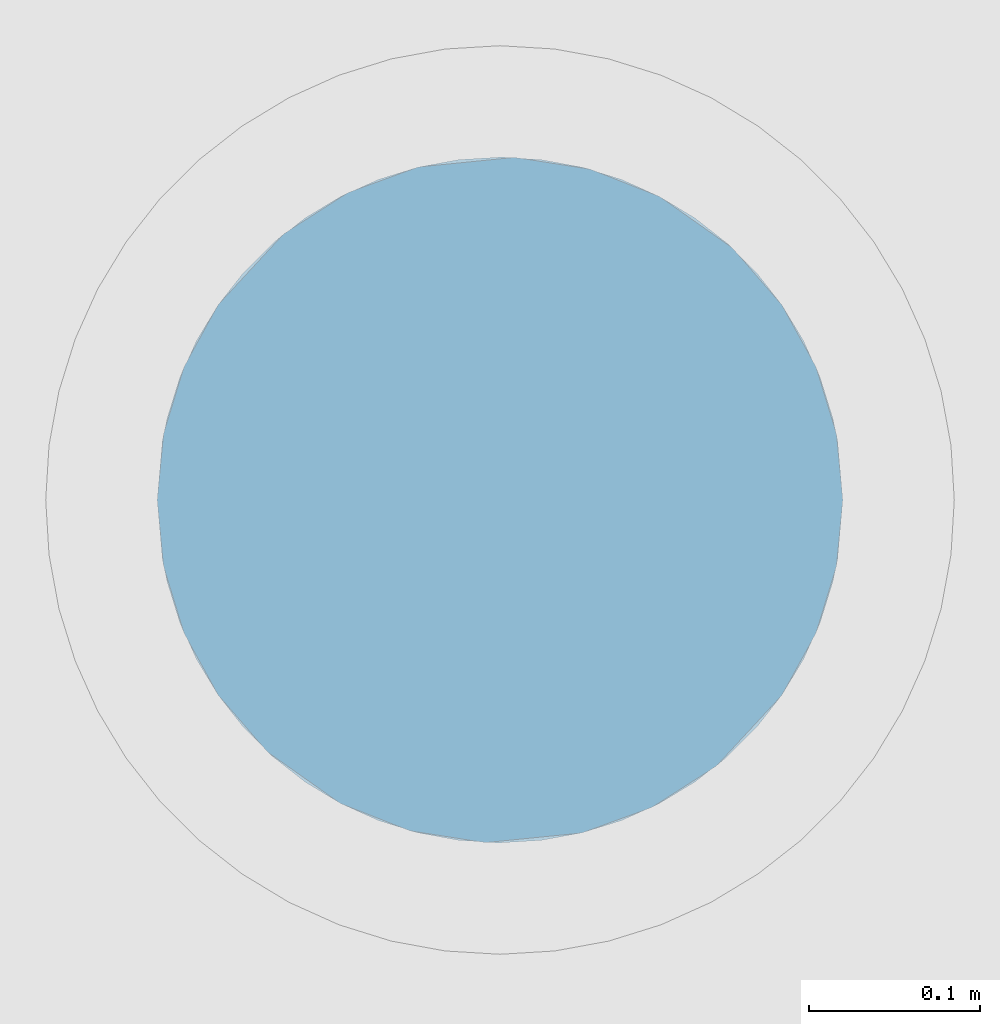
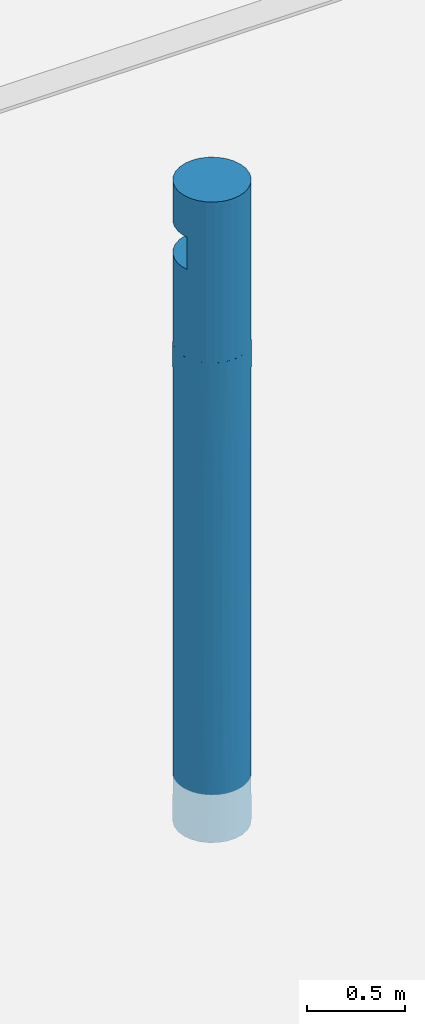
# One storey, part 11 of 29: 1 column.
"""IFC2X3 building model written with IfcOpenShell, lengths in centimetres."""

from ifc_helpers import new_model, entity, si_unit, converted_unit, derived_unit, direction, frame, origin, place, context, subcontext, project, spatial, faceted_brep, source, transform, mapped, material, type_object, type_shapes, element, save


model = new_model("IFC2X3")

# Units and contexts
model_context = context("Model", 3, precision=0.001, world=origin(), true_north=direction((6.12303176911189e-17, 1.0)))
body_context = subcontext(model_context, "Body", "Model", "MODEL_VIEW")
ifc_project = project(units=[si_unit("LENGTHUNIT", "METRE", prefix="CENTI"), si_unit("AREAUNIT", "SQUARE_METRE"), si_unit("VOLUMEUNIT", "CUBIC_METRE"), converted_unit("PLANEANGLEUNIT", "DEGREE", entity("IfcRatioMeasure", 0.0174532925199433), si_unit("PLANEANGLEUNIT", "RADIAN"), dimensions=[0, 0, 0, 0, 0, 0, 0]), si_unit("MASSUNIT", "GRAM", prefix="KILO"), derived_unit("MASSDENSITYUNIT", [(si_unit("MASSUNIT", "GRAM", prefix="KILO"), 1), (si_unit("LENGTHUNIT", "METRE"), -3)]), si_unit("TIMEUNIT", "SECOND"), si_unit("FREQUENCYUNIT", "HERTZ"), si_unit("THERMODYNAMICTEMPERATUREUNIT", "DEGREE_CELSIUS"), derived_unit("THERMALTRANSMITTANCEUNIT", [(si_unit("MASSUNIT", "GRAM", prefix="KILO"), 1), (si_unit("THERMODYNAMICTEMPERATUREUNIT", "KELVIN"), -1), (si_unit("TIMEUNIT", "SECOND"), -3)]), derived_unit("VOLUMETRICFLOWRATEUNIT", [(si_unit("LENGTHUNIT", "METRE"), 3), (si_unit("TIMEUNIT", "SECOND"), -1)]), si_unit("ELECTRICCURRENTUNIT", "AMPERE"), si_unit("ELECTRICVOLTAGEUNIT", "VOLT"), si_unit("POWERUNIT", "WATT"), si_unit("FORCEUNIT", "NEWTON"), si_unit("ILLUMINANCEUNIT", "LUX"), si_unit("LUMINOUSFLUXUNIT", "LUMEN"), si_unit("LUMINOUSINTENSITYUNIT", "CANDELA"), derived_unit("USERDEFINED", [(si_unit("MASSUNIT", "GRAM", prefix="KILO"), -1), (si_unit("LENGTHUNIT", "METRE"), -2), (si_unit("TIMEUNIT", "SECOND"), 3), (si_unit("LUMINOUSFLUXUNIT", "LUMEN"), 1)]), derived_unit("LINEARVELOCITYUNIT", [(si_unit("LENGTHUNIT", "METRE"), 1), (si_unit("TIMEUNIT", "SECOND"), -1)]), si_unit("PRESSUREUNIT", "PASCAL"), derived_unit("USERDEFINED", [(si_unit("LENGTHUNIT", "METRE"), -2), (si_unit("MASSUNIT", "GRAM", prefix="KILO"), 1), (si_unit("TIMEUNIT", "SECOND"), -2)])], contexts=[model_context])

# Site, building, storey
site_placement = place(None, origin())
site = spatial("IfcSite", under=ifc_project, at=site_placement, Name="Default", CompositionType="ELEMENT")
building_placement = place(site_placement, origin())
building = spatial("IfcBuilding", under=site, at=building_placement, Name="CAGE 03", CompositionType="ELEMENT")
storey_placement = place(building_placement, frame((0.0, 0.0, -26.0)))
storey = spatial("IfcBuildingStorey", under=building, at=storey_placement, Name="+3.74", CompositionType="ELEMENT", Elevation=-26.0000000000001)

# Column
ifc_material = material(Name="Béton, C25/30")
column_type = type_object("IfcColumnType", Name="Ø40", PredefinedType="COLUMN", material=ifc_material)
shared_shape = source(origin(), body_context, "Body", "Brep", [
    faceted_brep([(20.1595272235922, 0.15952722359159, 398.0), (24.6091393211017, 0.659193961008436, 398.0), (28.8358050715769, 2.13788626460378, 398.0), (32.6277082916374, 4.5200188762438, 398.0), (35.7947418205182, 7.68636603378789, 398.0), (38.1780107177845, 11.4784056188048, 398.0), (38.9178626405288, 13.5921492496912, 398.0), (39.657714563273, 15.7058928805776, 398.0), (39.9086208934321, 17.9319145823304, 398.0), (40.159527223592, 20.1579362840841, 398.0), (39.657714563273, 24.6099796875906, 398.0), (38.1780107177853, 28.8374669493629, 398.0), (35.7947418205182, 32.6295065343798, 398.0), (32.6277082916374, 35.7958536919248, 398.0), (28.8358050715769, 38.1779863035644, 398.0), (24.6091393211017, 39.6566786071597, 398.0), (20.1595272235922, 40.1563453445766, 398.0), (15.7099151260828, 39.6566786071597, 398.0), (11.4832493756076, 38.1779863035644, 398.0), (7.69134615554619, 35.7958536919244, 398.0), (4.52431262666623, 32.6295065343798, 398.0), (2.14104372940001, 28.8374669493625, 398.0), (0.661339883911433, 24.6099796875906, 398.0), (0.15952722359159, 20.1579362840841, 398.0), (0.410433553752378, 17.9319145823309, 398.0), (0.661339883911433, 15.7058928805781, 398.0), (1.40119180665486, 13.5921492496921, 398.0), (2.14104372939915, 11.4784056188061, 398.0), (4.52431262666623, 7.68636603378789, 398.0), (7.69134615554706, 4.52001887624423, 398.0), (11.4832493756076, 2.13788626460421, 398.0), (15.7099151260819, 0.659193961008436, 398.0), (20.1595272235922, 40.1563453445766, 298.0), (24.6091393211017, 39.6566786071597, 298.0), (28.8358050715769, 38.1779863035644, 298.0), (32.6277082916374, 35.7958536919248, 298.0), (35.7947418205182, 32.6295065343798, 298.0), (38.1780107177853, 28.8374669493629, 298.0), (39.657714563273, 24.6099796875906, 298.0), (40.159527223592, 20.1579362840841, 298.0), (39.657714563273, 15.7058928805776, 298.0), (38.1780107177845, 11.4784056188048, 298.0), (35.7947418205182, 7.68636603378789, 298.0), (32.6277082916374, 4.5200188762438, 298.0), (28.8358050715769, 2.13788626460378, 298.0), (24.6091393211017, 0.659193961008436, 298.0), (20.1595272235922, 0.15952722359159, 298.0), (15.7099151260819, 0.659193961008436, 298.0), (11.4832493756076, 2.13788626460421, 298.0), (7.69134615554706, 4.52001887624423, 298.0), (4.52431262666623, 7.68636603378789, 298.0), (2.14104372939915, 11.4784056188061, 298.0), (0.661339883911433, 15.7058928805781, 298.0), (0.15952722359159, 20.1579362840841, 298.0), (0.661339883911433, 24.6099796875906, 298.0), (2.14104372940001, 28.8374669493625, 298.0), (4.52431262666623, 32.6295065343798, 298.0), (7.69134615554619, 35.7958536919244, 298.0), (11.4832493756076, 38.1779863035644, 298.0), (15.7099151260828, 39.6566786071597, 298.0), (0.478319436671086, 16.6012439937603, 353.0), (1.4245332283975, 13.1579362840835, 353.0), (0.159527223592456, 20.1579362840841, 353.0), (0.159527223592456, 20.1579362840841, 373.0), (0.478319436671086, 16.6012439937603, 373.0), (1.4245332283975, 13.1579362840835, 373.0), (38.894521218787, 13.1579362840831, 353.0), (39.8407350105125, 16.6012439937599, 353.0), (40.159527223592, 20.1579362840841, 353.0), (40.159527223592, 20.1579362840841, 373.0), (39.8407350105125, 16.6012439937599, 373.0), (38.894521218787, 13.1579362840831, 373.0), (39.6577145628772, 24.6099796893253, 373.0), (38.1780106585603, 28.8374670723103, 373.0), (38.1780106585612, 28.8374670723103, 353.0), (39.6577145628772, 24.6099796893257, 353.0), (35.7947416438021, 32.6295067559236, 373.0), (32.6277079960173, 35.7958539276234, 373.0), (28.8358047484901, 38.1779864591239, 373.0), (32.6277079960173, 35.7958539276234, 353.0), (35.7947416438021, 32.6295067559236, 353.0), (24.6091391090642, 39.6566786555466, 373.0), (20.1595272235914, 40.1579362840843, 373.0), (11.4832496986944, 38.1779864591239, 373.0), (7.69134645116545, 35.7958539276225, 373.0), (15.7099153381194, 39.6566786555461, 373.0), (4.52431280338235, 32.6295067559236, 373.0), (2.14104378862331, 28.8374670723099, 373.0), (0.661339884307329, 24.6099796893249, 373.0), (0.661339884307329, 24.6099796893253, 353.0), (2.14104378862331, 28.8374670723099, 353.0), (28.8358047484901, 38.1779864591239, 353.0), (24.6091391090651, 39.6566786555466, 353.0), (20.1595272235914, 40.1563453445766, 353.0), (15.7099153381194, 39.6566786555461, 353.0), (11.4832496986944, 38.1779864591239, 353.0), (7.69134645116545, 35.795853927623, 353.0), (4.52431280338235, 32.6295067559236, 353.0)], [[[0, 1, 2, 3, 4, 5, 6, 7, 8, 9, 10, 11, 12, 13, 14, 15, 16, 17, 18, 19, 20, 21, 22, 23, 24, 25, 26, 27, 28, 29, 30, 31]], [[32, 33, 34, 35, 36, 37, 38, 39, 40, 41, 42, 43, 44, 45, 46, 47, 48, 49, 50, 51, 52, 53, 54, 55, 56, 57, 58, 59]], [[60, 52, 61]], [[62, 53, 60]], [[60, 53, 52]], [[61, 52, 51]], [[48, 47, 31, 30]], [[28, 50, 49, 29]], [[29, 49, 48, 30]], [[51, 50, 61]], [[31, 47, 46, 0]], [[63, 24, 23]], [[24, 63, 64]], [[65, 25, 64]], [[65, 27, 26, 25]], [[61, 27, 65]], [[61, 28, 27]], [[28, 61, 50]], [[42, 4, 3, 43]], [[44, 2, 1, 45]], [[44, 43, 3, 2]], [[42, 41, 66]], [[40, 39, 67]], [[40, 67, 66]], [[67, 39, 68]], [[64, 25, 24]], [[69, 8, 70]], [[40, 66, 41]], [[42, 66, 4]], [[45, 1, 0, 46]], [[71, 7, 6, 5]], [[69, 9, 8]], [[71, 70, 7]], [[7, 70, 8]], [[5, 4, 66]], [[71, 5, 66]], [[11, 72, 73]], [[74, 75, 37]], [[10, 9, 69, 72]], [[38, 75, 68, 39]], [[12, 73, 76]], [[14, 77, 78]], [[77, 12, 76]], [[35, 79, 80]], [[15, 78, 81]], [[11, 73, 12]], [[74, 37, 36]], [[10, 72, 11]], [[38, 37, 75]], [[77, 14, 13]], [[13, 12, 77]], [[80, 36, 35]], [[14, 78, 15]], [[82, 16, 15]], [[15, 81, 82]], [[83, 84, 18]], [[85, 83, 17]], [[86, 87, 20]], [[88, 63, 23, 22]], [[89, 54, 53, 62]], [[87, 88, 21]], [[89, 90, 55]], [[84, 86, 19]], [[16, 85, 17]], [[17, 83, 18]], [[19, 18, 84]], [[86, 20, 19]], [[87, 21, 20]], [[90, 56, 55]], [[22, 21, 88]], [[55, 54, 89]], [[85, 16, 82]], [[91, 92, 93, 94, 95, 96, 97, 90, 89, 62, 60, 61, 66, 67, 68, 75, 74, 80, 79]], [[70, 71, 65, 64, 63, 88, 87, 86, 84, 83, 85, 82, 81, 78, 77, 76, 73, 72, 69]], [[65, 71, 66, 61]], [[34, 33, 91]], [[79, 35, 34]], [[92, 33, 32]], [[36, 80, 74]], [[91, 79, 34]], [[33, 92, 91]], [[32, 93, 92]], [[95, 59, 58]], [[57, 96, 58]], [[97, 57, 56]], [[32, 94, 93]], [[94, 59, 95]], [[96, 95, 58]], [[57, 97, 96]], [[56, 90, 97]], [[94, 32, 59]]]),
    faceted_brep([(22.5702608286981, 40.0121137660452, 0.0), (27.2516249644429, 38.8582611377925, 0.0), (31.5208221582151, 36.6176136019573, 0.0), (35.1297421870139, 33.4203894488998, 0.0), (37.8686477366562, 29.4523997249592, 0.0), (39.578363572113, 24.9442495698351, 0.0), (40.159527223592, 20.1579362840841, 0.0), (39.578363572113, 15.3716229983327, 0.0), (37.8686477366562, 10.8634728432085, 0.0), (35.1297421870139, 6.89548311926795, 0.0), (31.5208221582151, 3.69825896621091, 0.0), (27.2516249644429, 1.45761143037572, 0.0), (22.5702608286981, 0.303758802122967, 0.0), (17.7487936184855, 0.303758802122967, 0.0), (13.0674294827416, 1.45761143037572, 0.0), (8.79823228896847, 3.69825896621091, 0.0), (5.1893122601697, 6.89548311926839, 0.0), (2.45040671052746, 10.8634728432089, 0.0), (0.740690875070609, 15.3716229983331, 0.0), (0.15952722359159, 20.1579362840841, 0.0), (0.740690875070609, 24.9442495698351, 0.0), (2.45040671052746, 29.4523997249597, 0.0), (5.1893122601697, 33.4203894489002, 0.0), (8.79823228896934, 36.6176136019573, 0.0), (13.0674294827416, 38.8582611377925, 0.0), (17.7487936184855, 40.0121137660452, 0.0), (27.2516249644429, 1.45761143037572, 298.0), (31.5208221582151, 3.69825896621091, 298.0), (35.1297421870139, 6.89548311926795, 298.0), (37.8686477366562, 10.8634728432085, 298.0), (39.578363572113, 15.3716229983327, 298.0), (40.159527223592, 20.1579362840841, 298.0), (39.578363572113, 24.9442495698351, 298.0), (37.8686477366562, 29.4523997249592, 298.0), (35.1297421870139, 33.4203894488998, 298.0), (31.5208221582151, 36.6176136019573, 298.0), (27.2516249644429, 38.8582611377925, 298.0), (22.5702608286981, 40.0121137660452, 298.0), (17.7487936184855, 40.0121137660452, 298.0), (13.0674294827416, 38.8582611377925, 298.0), (8.79823228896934, 36.6176136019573, 298.0), (5.1893122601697, 33.4203894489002, 298.0), (2.45040671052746, 29.4523997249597, 298.0), (0.740690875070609, 24.9442495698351, 298.0), (0.15952722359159, 20.1579362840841, 298.0), (0.740690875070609, 15.3716229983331, 298.0), (2.45040671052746, 10.8634728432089, 298.0), (5.1893122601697, 6.89548311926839, 298.0), (8.79823228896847, 3.69825896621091, 298.0), (13.0674294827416, 1.45761143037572, 298.0), (17.7487936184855, 0.303758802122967, 298.0), (22.5702608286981, 0.303758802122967, 298.0), (29.4539906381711, 37.8670568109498, 234.492004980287), (15.3732139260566, 39.5767726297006, 237.069426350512), (39.8586298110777, 23.6141418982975, 60.2992552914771), (38.8598520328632, 27.250034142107, 92.1783624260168), (29.4539906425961, 37.8670568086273, 64.7303650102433), (33.4219803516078, 35.1281512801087, 86.909719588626), (0.159527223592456, 20.1579362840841, 49.3811051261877), (36.6192045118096, 31.5192312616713, 234.492005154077), (38.8598520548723, 27.2500340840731, 216.184382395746), (39.7898281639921, 23.9856359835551, 148.140478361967), (38.5835538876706, 27.9396611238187, 151.462832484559), (0.15952722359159, 20.1579362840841, 100.479587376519), (0.539464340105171, 24.0377729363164, 149.859525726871), (0.457816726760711, 23.5992446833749, 74.9297628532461), (1.73651405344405, 27.942060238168, 152.588649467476), (1.45920236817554, 27.25003402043, 86.9097194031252), (24.9458404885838, 39.5767726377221, 86.9097193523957), (20.15952721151, 40.1579362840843, 64.7303650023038), (3.69984990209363, 31.5192312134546, 237.069426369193), (6.89707405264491, 35.1281512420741, 233.269635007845), (40.159527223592, 20.1579362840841, 248.619841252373), (10.8650637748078, 37.8670567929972, 86.9097194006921), (33.4219803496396, 35.1281512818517, 216.184382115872), (36.6192044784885, 31.5192313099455, 161.451403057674), (36.6192045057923, 31.5192312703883, 64.7303651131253), (0.159527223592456, 20.1579362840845, 197.520510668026), (0.159527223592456, 20.1579362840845, 199.23979368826), (29.4539906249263, 37.8670568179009, 149.0), (0.441806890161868, 23.5062948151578, 238.83127802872), (1.45920236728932, 27.2500340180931, 211.090280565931), (15.3732139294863, 39.5767726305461, 60.9305736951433), (15.3732139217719, 39.5767726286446, 149.0), (11.3350094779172, 38.1058577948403, 149.0), (6.89707405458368, 35.1281512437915, 64.7303649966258), (20.1595272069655, 40.1579362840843, 233.269635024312), (3.6998499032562, 31.5192312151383, 60.930573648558), (3.69984990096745, 31.519231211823, 149.0), (21.0345162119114, 40.1387869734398, 146.717454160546), (25.4559542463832, 39.4438861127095, 149.0), (24.9458404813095, 39.5767726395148, 211.09028058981), (40.159527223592, 20.1579362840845, 98.7603174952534), (10.8650637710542, 37.8670567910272, 211.09028055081), (33.7312290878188, 34.8483722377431, 151.547050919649), (7.56471106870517, 35.694042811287, 146.717453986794), (39.8666164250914, 23.5683079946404, 223.070239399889), (40.159527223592, 20.1579362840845, 197.520634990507), (40.159527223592, 20.1579362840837, 100.479367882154), (40.159527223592, 20.1579362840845, 49.3801580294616), (0.159527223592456, 20.1579362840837, 98.7602553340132), (0.15952722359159, 20.1579362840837, 248.619032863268), (40.1595272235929, 20.1579362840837, 199.239683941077), (36.6192045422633, 8.79664135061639, 237.069426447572), (33.4219803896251, 5.18772132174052, 233.269635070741), (39.8772475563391, 16.8095777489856, 238.831278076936), (38.8598520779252, 13.0658385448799, 211.090280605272), (38.5825403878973, 12.3738123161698, 152.588649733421), (38.8598520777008, 13.0658385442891, 86.9097193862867), (39.7795901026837, 16.2780996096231, 149.859525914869), (6.89707406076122, 5.1877213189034, 86.9097194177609), (10.8650637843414, 2.4488157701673, 64.7303649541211), (24.9458405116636, 0.739099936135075, 149.0), (29.4539906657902, 2.44881577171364, 86.909719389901), (28.9840449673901, 2.21001477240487, 149.0), (6.89707406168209, 5.18772131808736, 216.184381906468), (32.7543433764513, 4.62182975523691, 146.717453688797), (33.4219803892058, 5.18772132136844, 64.7303649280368), (39.8612377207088, 16.7166278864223, 74.9297629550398), (20.1595272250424, 0.157936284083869, 64.7303649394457), (15.3732139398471, 0.739099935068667, 86.9097193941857), (1.45920237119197, 13.0658385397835, 92.1783625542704), (10.8650637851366, 2.44881576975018, 234.492004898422), (24.9458405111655, 0.739099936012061, 237.069426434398), (3.69984990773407, 8.79664134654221, 234.492004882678), (3.69984990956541, 8.79664134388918, 161.451402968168), (3.69984990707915, 8.79664134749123, 64.7303649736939), (1.45920237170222, 13.0658385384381, 216.184381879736), (0.529226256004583, 16.3302367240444, 148.140474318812), (1.73550049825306, 12.3762115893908, 151.462831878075), (10.865063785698, 2.44881576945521, 149.0), (0.460424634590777, 16.7017306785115, 60.2992559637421), (24.9458405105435, 0.739099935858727, 60.9305735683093), (19.2845382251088, 0.177085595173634, 146.717453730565), (36.6192045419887, 8.79664135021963, 60.9305735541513), (36.6192045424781, 8.79664135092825, 149.0), (20.1595272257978, 0.157936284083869, 233.269635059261), (14.8631001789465, 0.871986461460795, 149.0), (15.3732139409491, 0.739099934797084, 211.090280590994), (29.4539906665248, 2.44881577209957, 211.090280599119), (6.58782530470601, 5.46750038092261, 151.54705066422), (0.45243801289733, 16.7475646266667, 223.070237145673)], [[[0, 1, 2, 3, 4, 5, 6, 7, 8, 9, 10, 11, 12, 13, 14, 15, 16, 17, 18, 19, 20, 21, 22, 23, 24, 25]], [[26, 27, 28, 29, 30, 31, 32, 33, 34, 35, 36, 37, 38, 39, 40, 41, 42, 43, 44, 45, 46, 47, 48, 49, 50, 51]], [[36, 35, 52]], [[39, 38, 53]], [[54, 6, 5]], [[55, 5, 4]], [[2, 56, 57]], [[20, 19, 58]], [[34, 33, 59]], [[60, 61, 62]], [[2, 1, 56]], [[63, 64, 65]], [[66, 67, 64]], [[68, 0, 69]], [[2, 57, 3]], [[68, 1, 0]], [[70, 41, 71]], [[32, 31, 72]], [[73, 24, 23]], [[74, 35, 34]], [[33, 32, 60]], [[59, 33, 60]], [[74, 59, 75]], [[75, 76, 57]], [[64, 63, 77, 78]], [[74, 52, 35]], [[42, 41, 70]], [[57, 56, 79]], [[79, 52, 74]], [[80, 43, 81]], [[69, 25, 82]], [[83, 73, 84]], [[40, 71, 41]], [[73, 23, 85]], [[67, 65, 64]], [[37, 86, 38]], [[87, 88, 85]], [[88, 70, 71]], [[89, 68, 69]], [[22, 87, 85]], [[79, 68, 90]], [[85, 23, 22]], [[81, 43, 42]], [[86, 37, 91]], [[53, 38, 86]], [[61, 92, 54]], [[57, 76, 3]], [[54, 5, 55]], [[69, 82, 83]], [[83, 53, 86]], [[76, 75, 55]], [[93, 40, 39]], [[71, 40, 93]], [[94, 79, 74]], [[21, 20, 67]], [[44, 43, 80]], [[69, 0, 25]], [[91, 37, 36]], [[95, 73, 85]], [[3, 76, 4]], [[94, 74, 75]], [[52, 79, 91]], [[79, 56, 68]], [[32, 72, 96]], [[61, 97, 98, 92]], [[1, 68, 56]], [[55, 4, 76]], [[25, 24, 82]], [[89, 69, 83]], [[93, 53, 83]], [[83, 82, 73]], [[90, 89, 91]], [[91, 89, 86]], [[83, 86, 89]], [[22, 21, 87]], [[95, 85, 88]], [[81, 70, 88]], [[88, 87, 67]], [[84, 95, 93]], [[93, 95, 71]], [[88, 71, 95]], [[91, 36, 52]], [[75, 59, 60]], [[74, 34, 59]], [[24, 73, 82]], [[93, 39, 53]], [[21, 67, 87]], [[81, 42, 70]], [[62, 61, 55]], [[61, 60, 96]], [[55, 75, 62]], [[60, 62, 75]], [[61, 54, 55]], [[54, 92, 99, 6]], [[89, 90, 68]], [[91, 79, 90]], [[95, 84, 73]], [[93, 83, 84]], [[65, 58, 100, 63]], [[20, 58, 65]], [[20, 65, 67]], [[80, 64, 78]], [[64, 81, 66]], [[64, 80, 81]], [[80, 78, 101, 44]], [[75, 57, 94]], [[79, 94, 57]], [[96, 72, 102, 97]], [[61, 96, 97]], [[32, 96, 60]], [[81, 88, 66]], [[67, 66, 88]], [[103, 28, 104]], [[105, 30, 106]], [[107, 108, 109]], [[16, 15, 110]], [[15, 111, 110]], [[112, 113, 114]], [[111, 15, 14]], [[7, 6, 99]], [[47, 115, 48]], [[116, 113, 117]], [[98, 109, 118]], [[13, 119, 120]], [[121, 18, 17]], [[120, 14, 13]], [[49, 48, 122]], [[45, 44, 101]], [[26, 51, 123]], [[115, 124, 125]], [[125, 126, 110]], [[127, 128, 129]], [[124, 47, 46]], [[127, 124, 46]], [[109, 98, 97, 102]], [[122, 48, 115]], [[113, 11, 10]], [[110, 111, 130]], [[130, 122, 115]], [[131, 19, 18]], [[119, 12, 132]], [[117, 10, 9]], [[133, 120, 119]], [[113, 10, 117]], [[108, 118, 109]], [[126, 125, 121]], [[125, 124, 127]], [[134, 135, 117]], [[135, 103, 104]], [[50, 136, 51]], [[9, 134, 117]], [[119, 13, 12]], [[130, 120, 137]], [[106, 30, 29]], [[136, 50, 138]], [[123, 51, 136]], [[16, 126, 17]], [[46, 45, 127]], [[128, 100, 131]], [[119, 132, 112]], [[112, 123, 136]], [[131, 18, 121]], [[139, 27, 26]], [[104, 27, 139]], [[31, 30, 105]], [[8, 7, 108]], [[110, 126, 16]], [[140, 130, 115]], [[138, 50, 49]], [[27, 104, 28]], [[29, 28, 103]], [[140, 115, 125]], [[122, 130, 138]], [[130, 111, 120]], [[45, 101, 141]], [[128, 77, 63, 100]], [[14, 120, 111]], [[121, 17, 126]], [[12, 11, 132]], [[133, 119, 112]], [[139, 123, 112]], [[112, 132, 113]], [[137, 133, 138]], [[138, 133, 136]], [[112, 136, 133]], [[9, 8, 134]], [[116, 117, 135]], [[106, 103, 135]], [[135, 134, 108]], [[114, 116, 139]], [[139, 116, 104]], [[135, 104, 116]], [[138, 49, 122]], [[115, 47, 124]], [[11, 113, 132]], [[139, 26, 123]], [[8, 108, 134]], [[106, 29, 103]], [[129, 128, 121]], [[128, 127, 141]], [[121, 125, 129]], [[127, 129, 125]], [[128, 131, 121]], [[131, 100, 58, 19]], [[133, 137, 120]], [[138, 130, 137]], [[116, 114, 113]], [[139, 112, 114]], [[118, 99, 92, 98]], [[7, 99, 118]], [[7, 118, 108]], [[105, 109, 102]], [[109, 106, 107]], [[109, 105, 106]], [[105, 102, 72, 31]], [[125, 110, 140]], [[130, 140, 110]], [[141, 101, 78, 77]], [[128, 141, 77]], [[45, 141, 127]], [[106, 135, 107]], [[108, 107, 135]]]),
])
type_shapes(column_type, [shared_shape])
column_placement = place(storey_placement, frame((7151.20629291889, 3801.50272979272, -32.0)))
element("IfcColumn", 1, at=column_placement, inside=storey, type_object=column_type, material=ifc_material, Name="BBGO-Poteau circ:Ø40", ObjectType="Ø40", context=body_context, shape_type="MappedRepresentation", body=[
    mapped(shared_shape, transform((0.0, 0.0, 0.0), scale=1.0)),
])

save(model, "model.ifc")
